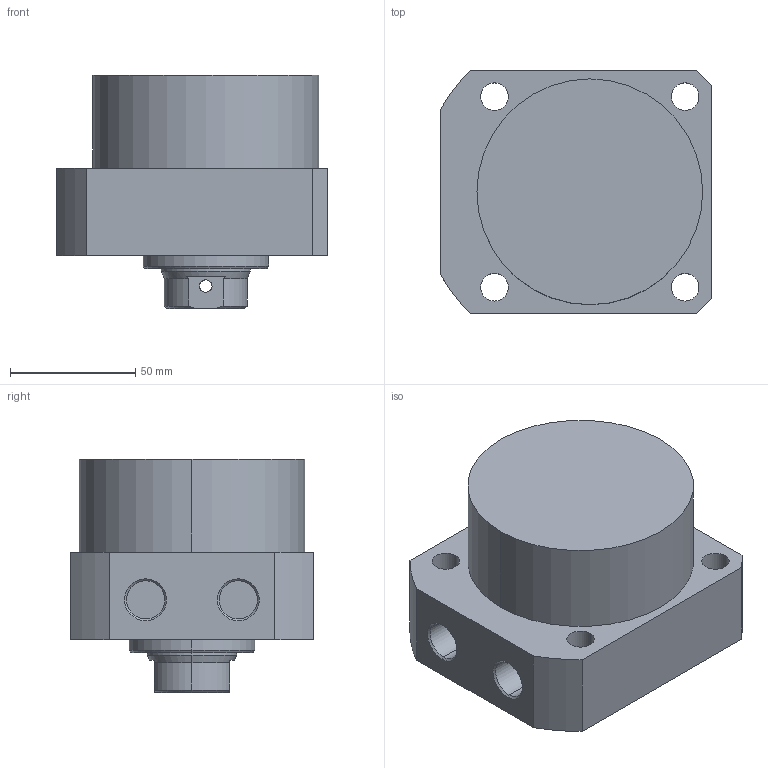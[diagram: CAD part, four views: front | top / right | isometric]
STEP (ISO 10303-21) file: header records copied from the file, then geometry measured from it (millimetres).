
FILE_DESCRIPTION (( 'STEP AP203' ), '1' );
FILE_NAME ('CLLR-090CB-015.STEP', '2019-12-19T02:24:55', ( '' ), ( '' ), 'SwSTEP 2.0', 'SolidWorks 2015', '' );
FILE_SCHEMA (( 'CONFIG_CONTROL_DESIGN' ));
Length unit declared in the file: millimetre
Products named in the file (1): CLLR-090CB-015
Bounding box: 108 x 97 x 93 mm (x, y, z)
Volume: 585398 mm3; surface area: 55647.2 mm2
Topology: 1 solids, 1 shells, 67 faces, 161 edges, 102 vertices
Faces by surface type: cylinder 33, plane 19, cone 15
Entity records: 2179 total; most frequent: CARTESIAN_POINT 477, DIRECTION 360, ORIENTED_EDGE 318, EDGE_CURVE 159, AXIS2_PLACEMENT_3D 145, VERTEX_POINT 102, EDGE_LOOP 87, CIRCLE 77
